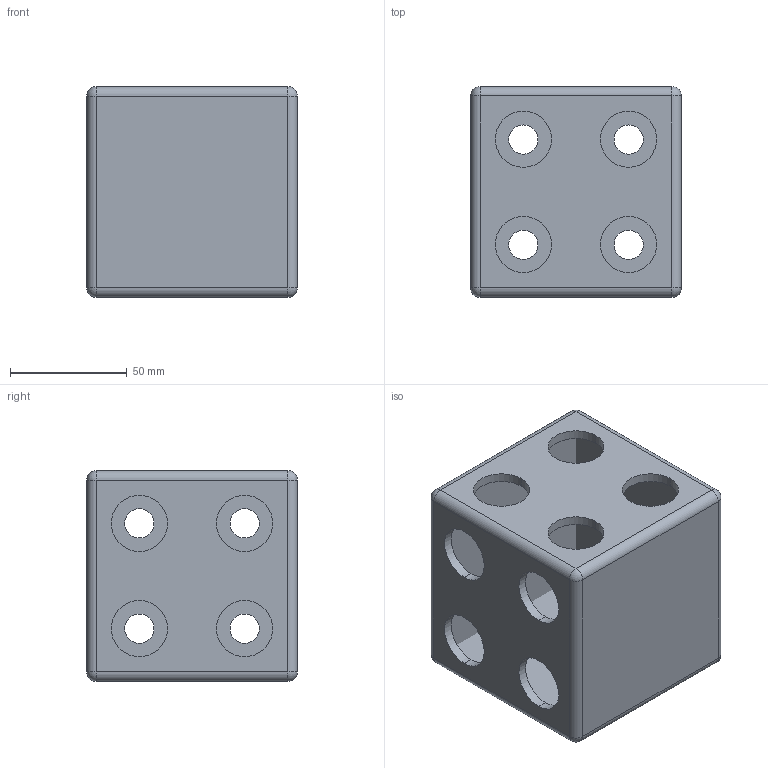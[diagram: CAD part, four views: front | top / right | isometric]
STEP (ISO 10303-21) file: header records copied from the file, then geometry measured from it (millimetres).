
FILE_DESCRIPTION (( 'STEP AP214' ), '1' );
FILE_NAME ('9090-2.STEP', '2020-06-22T06:13:18', ( '' ), ( '' ), 'SwSTEP 2.0', 'SolidWorks 2018', '' );
FILE_SCHEMA (( 'AUTOMOTIVE_DESIGN' ));
Length unit declared in the file: millimetre
Products named in the file (4): 9090-2.03; 9090-2.02; 9090-2.01; 9090-2
Assembly tree (6 placements, depth 2):
  9090-2
    9090-2.01  x2
    9090-2.02  x2
    9090-2.03  x2
Bounding box: 90 x 90 x 90 mm (x, y, z)
Volume: 162852.5 mm3; surface area: 94224.3 mm2
Topology: 6 solids, 6 shells, 96 faces, 252 edges, 144 vertices
Faces by surface type: cylinder 60, sphere 24, plane 12
Entity records: 1628 total; most frequent: DIRECTION 300, CARTESIAN_POINT 243, ORIENTED_EDGE 228, AXIS2_PLACEMENT_3D 129, EDGE_CURVE 114, CIRCLE 72, VERTEX_POINT 72, EDGE_LOOP 66
